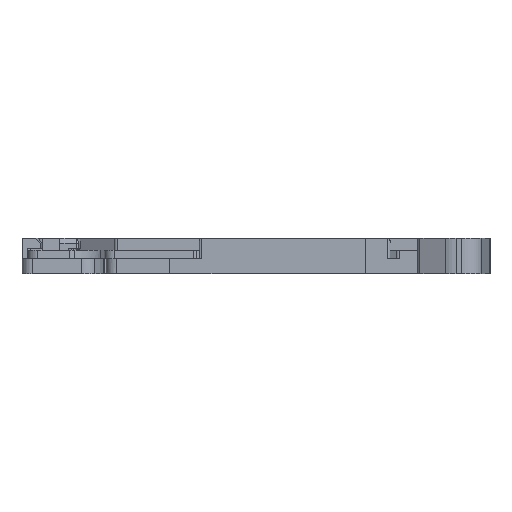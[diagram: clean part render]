
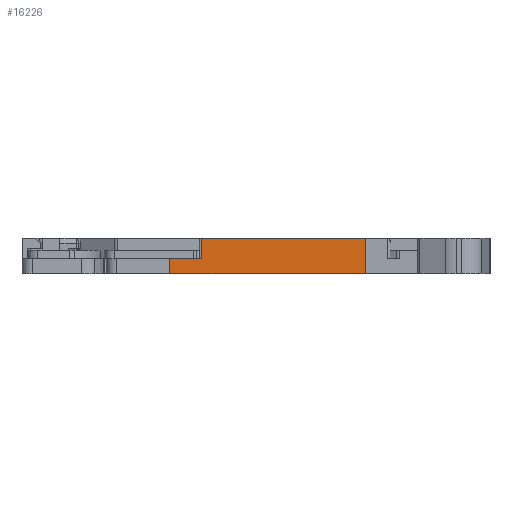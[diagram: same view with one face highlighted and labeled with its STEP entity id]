
A CAD part, front view. The second image highlights one B-rep face of the part: STEP entity #16226.
In plain terms, the highlighted planar face has unit normal (0, -1, 0).
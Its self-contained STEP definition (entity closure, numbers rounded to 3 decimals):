
#1483=DIRECTION('',(-1.,0.,0.));
#1484=VECTOR('',#1483,16.304);
#1485=CARTESIAN_POINT('',(25.353,0.,
0.));
#1486=LINE('',#1485,#1484);
#2077=DIRECTION('',(0.,0.,-1.));
#2078=VECTOR('',#2077,2.);
#2079=CARTESIAN_POINT('',(9.049,0.,
0.));
#2080=LINE('',#2079,#2078);
#2094=DIRECTION('',(1.,0.,0.));
#2095=VECTOR('',#2094,3.096);
#2096=CARTESIAN_POINT('',(5.953,0.,
-2.));
#2097=LINE('',#2096,#2095);
#2106=DIRECTION('',(0.,0.,-1.));
#2107=VECTOR('',#2106,1.5);
#2108=CARTESIAN_POINT('',(5.953,0.,
-2.));
#2109=LINE('',#2108,#2107);
#3042=DIRECTION('',(1.,0.,0.));
#3043=VECTOR('',#3042,19.4);
#3044=CARTESIAN_POINT('',(5.953,0.,
-3.5));
#3045=LINE('',#3044,#3043);
#4664=DIRECTION('',(0.,0.,1.));
#4665=VECTOR('',#4664,3.5);
#4666=CARTESIAN_POINT('',(25.353,0.,
-3.5));
#4667=LINE('',#4666,#4665);
#11729=CARTESIAN_POINT('',(9.049,0.,
-2.));
#11730=VERTEX_POINT('',#11729);
#11731=CARTESIAN_POINT('',(5.953,0.,
-2.));
#11732=VERTEX_POINT('',#11731);
#12398=CARTESIAN_POINT('',(25.353,0.,
0.));
#12399=VERTEX_POINT('',#12398);
#12400=CARTESIAN_POINT('',(9.049,0.,
0.));
#12401=VERTEX_POINT('',#12400);
#12815=CARTESIAN_POINT('',(5.953,0.,
-3.5));
#12816=VERTEX_POINT('',#12815);
#12817=CARTESIAN_POINT('',(25.353,0.,
-3.5));
#12818=VERTEX_POINT('',#12817);
#16209=CARTESIAN_POINT('',(25.838,0.,
-3.588));
#16210=DIRECTION('',(0.,1.,0.));
#16211=DIRECTION('',(-1.,0.,0.));
#16212=AXIS2_PLACEMENT_3D('',#16209,#16210,#16211);
#16213=PLANE('',#16212);
#16215=ORIENTED_EDGE('',*,*,#16214,.F.);
#16217=ORIENTED_EDGE('',*,*,#16216,.T.);
#16218=ORIENTED_EDGE('',*,*,#16198,.F.);
#16219=ORIENTED_EDGE('',*,*,#15577,.F.);
#16221=ORIENTED_EDGE('',*,*,#16220,.F.);
#16223=ORIENTED_EDGE('',*,*,#16222,.F.);
#16224=EDGE_LOOP('',(#16215,#16217,#16218,#16219,#16221,#16223));
#16225=FACE_OUTER_BOUND('',#16224,.F.);
#16226=ADVANCED_FACE('',(#16225),#16213,.F.);
#15577=EDGE_CURVE('',#12399,#12401,#1486,.T.);
#16198=EDGE_CURVE('',#12401,#11730,#2080,.T.);
#16214=EDGE_CURVE('',#11732,#12816,#2109,.T.);
#16216=EDGE_CURVE('',#11732,#11730,#2097,.T.);
#16220=EDGE_CURVE('',#12818,#12399,#4667,.T.);
#16222=EDGE_CURVE('',#12816,#12818,#3045,.T.);
